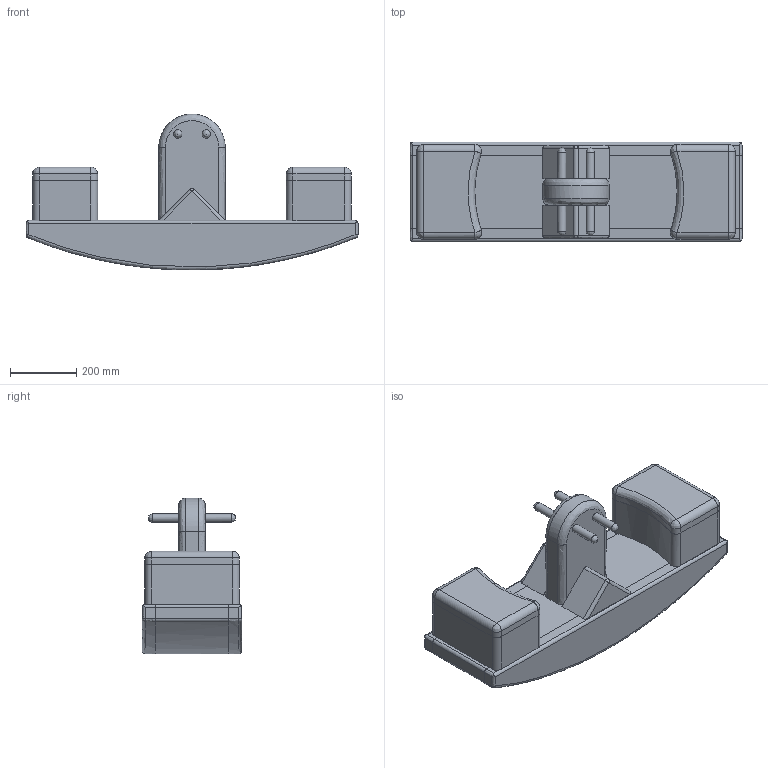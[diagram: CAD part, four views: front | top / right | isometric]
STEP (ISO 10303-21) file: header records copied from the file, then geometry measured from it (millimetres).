
FILE_DESCRIPTION(/* description */ (''),/* implementation_level */ '2;1');
FILE_NAME(/* name */ 'kinoshita_baobabland_k084',/* time_stamp */ '2026-04-02T15:05:42+09:00',/* author */ (''),/* organization */ (''),/* preprocessor_version */ 'ST-DEVELOPER v16.5',/* originating_system */ '',/* authorisation */ '');
FILE_SCHEMA (('AUTOMOTIVE_DESIGN'));
Length unit declared in the file: millimetre
Products named in the file (1): Document
Bounding box: 1000 x 300 x 469.09 mm (x, y, z)
Volume: 58004641 mm3; surface area: 2569603.5 mm2
Topology: 14 solids, 14 shells, 134 faces, 300 edges, 180 vertices
Faces by surface type: bspline 72, plane 62
Entity records: 5304 total; most frequent: CARTESIAN_POINT 3422, ORIENTED_EDGE 572, EDGE_CURVE 286, B_SPLINE_CURVE_WITH_KNOTS 190, VERTEX_POINT 180, ADVANCED_FACE 134, FACE_OUTER_BOUND 134, EDGE_LOOP 134
